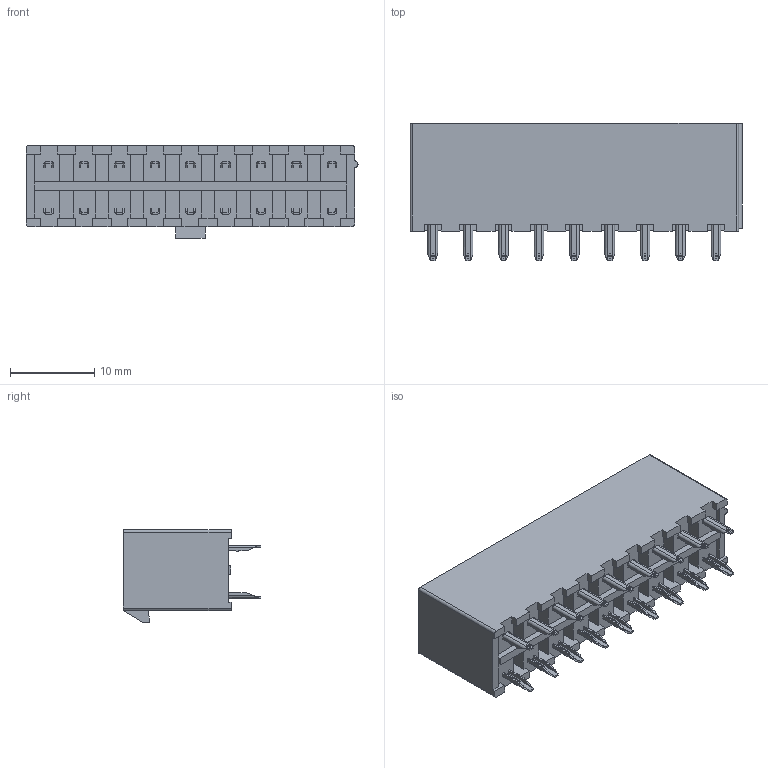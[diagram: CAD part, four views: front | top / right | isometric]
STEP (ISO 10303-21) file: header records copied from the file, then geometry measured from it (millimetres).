
FILE_DESCRIPTION((''),'2;1');
FILE_NAME('S-56976-018XX-001','2019-08-08T',('d33379'),(''),'CREO PARAMETRIC BY PTC INC, 2014500','CREO PARAMETRIC BY PTC INC, 2014500','');
FILE_SCHEMA(('CONFIG_CONTROL_DESIGN'));
Products named in the file (1): S-56976-018XX-001
Bounding box: 39.4 x 16.3 x 11 mm (x, y, z)
Volume: 2199.4 mm3; surface area: 5657 mm2
Topology: 1 solids, 1 shells, 2747 faces, 7403 edges, 4712 vertices
Faces by surface type: plane 1496, cylinder 815, bspline 436
Entity records: 119927 total; most frequent: CARTESIAN_POINT 53683, ORIENTED_EDGE 14734, DIRECTION 12337, EDGE_CURVE 7367, VERTEX_POINT 4676, VECTOR 4643, LINE 4643, AXIS2_PLACEMENT_3D 3847
